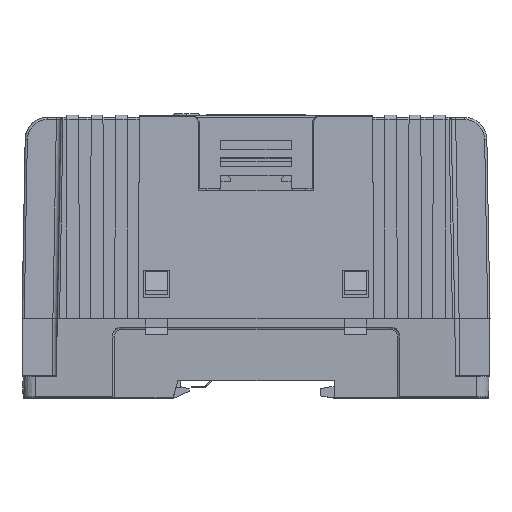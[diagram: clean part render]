
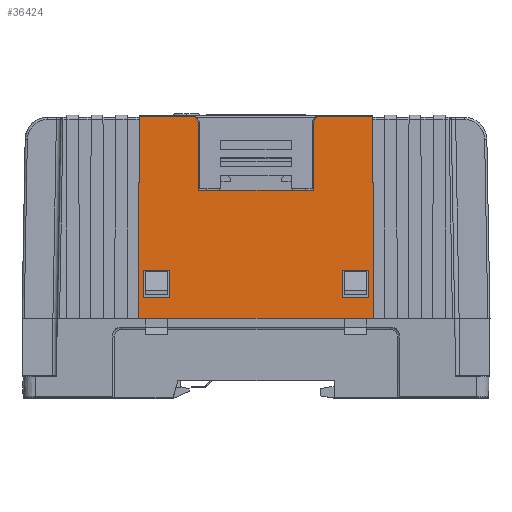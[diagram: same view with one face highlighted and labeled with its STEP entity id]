
A CAD part, top view. The second image highlights one B-rep face of the part: STEP entity #36424.
In plain terms, the highlighted planar face has unit normal (0, 0.018, 1).
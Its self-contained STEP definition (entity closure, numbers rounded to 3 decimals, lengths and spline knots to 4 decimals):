
#23849=DIRECTION('',(-1.,0.,0.));
#23850=VECTOR('',#23849,1.0236);
#23851=CARTESIAN_POINT('',(2.5591,1.8504,
0.1656));
#23852=LINE('',#23851,#23850);
#23865=DIRECTION('',(0.009,1.,-0.017));
#23866=VECTOR('',#23865,0.6177);
#23867=CARTESIAN_POINT('',(2.5591,1.8504,
0.1656));
#23868=LINE('',#23867,#23866);
#23869=DIRECTION('',(0.591,0.806,-0.014));
#23870=VECTOR('',#23869,0.0545);
#23871=CARTESIAN_POINT('',(2.5644,2.468,
0.1549));
#23872=LINE('',#23871,#23870);
#23873=DIRECTION('',(0.003,-1.,0.017));
#23874=VECTOR('',#23873,1.8036);
#23875=CARTESIAN_POINT('',(3.0885,2.5119,
0.1541));
#23876=LINE('',#23875,#23874);
#23877=DIRECTION('',(-1.,0.,0.));
#23878=VECTOR('',#23877,2.0951);
#23879=CARTESIAN_POINT('',(3.0948,0.7087,
0.1856));
#23880=LINE('',#23879,#23878);
#23881=DIRECTION('',(0.591,-0.806,0.014));
#23882=VECTOR('',#23881,0.0545);
#23883=CARTESIAN_POINT('',(1.4978,2.5119,
0.1541));
#23884=LINE('',#23883,#23882);
#23885=DIRECTION('',(0.009,-1.,0.017));
#23886=VECTOR('',#23885,0.6177);
#23887=CARTESIAN_POINT('',(1.53,2.468,
0.1549));
#23888=LINE('',#23887,#23886);
#23889=DIRECTION('',(-1.,0.,0.));
#23890=VECTOR('',#23889,0.2362);
#23891=CARTESIAN_POINT('',(3.0512,1.1339,
0.1781));
#23892=LINE('',#23891,#23890);
#23893=DIRECTION('',(1.,0.,0.));
#23894=VECTOR('',#23893,0.2362);
#23895=CARTESIAN_POINT('',(2.815,0.8976,
0.1823));
#23896=LINE('',#23895,#23894);
#23897=DIRECTION('',(-1.,0.,0.));
#23898=VECTOR('',#23897,0.2362);
#23899=CARTESIAN_POINT('',(1.2795,1.1339,
0.1781));
#23900=LINE('',#23899,#23898);
#23901=DIRECTION('',(1.,0.,0.));
#23902=VECTOR('',#23901,0.2362);
#23903=CARTESIAN_POINT('',(1.0433,0.8976,
0.1823));
#23904=LINE('',#23903,#23902);
#24079=DIRECTION('',(-1.,0.,0.));
#24080=VECTOR('',#24079,0.4918);
#24081=CARTESIAN_POINT('',(1.4978,2.5119,
0.1541));
#24082=LINE('',#24081,#24080);
#24089=DIRECTION('',(-0.003,-1.,0.017));
#24090=VECTOR('',#24089,1.8036);
#24091=CARTESIAN_POINT('',(1.006,2.5119,
0.1541));
#24092=LINE('',#24091,#24090);
#29344=DIRECTION('',(-1.,0.,0.));
#29345=VECTOR('',#29344,0.4918);
#29346=CARTESIAN_POINT('',(3.0885,2.5119,
0.1541));
#29347=LINE('',#29346,#29345);
#31993=DIRECTION('',(0.,-1.,0.017));
#31994=VECTOR('',#31993,0.2363);
#31995=CARTESIAN_POINT('',(3.0512,1.1339,
0.1781));
#31996=LINE('',#31995,#31994);
#32713=DIRECTION('',(0.,1.,-0.017));
#32714=VECTOR('',#32713,0.2363);
#32715=CARTESIAN_POINT('',(1.0433,0.8976,
0.1823));
#32716=LINE('',#32715,#32714);
#32733=DIRECTION('',(0.,-1.,0.017));
#32734=VECTOR('',#32733,0.2363);
#32735=CARTESIAN_POINT('',(1.2795,1.1339,
0.1781));
#32736=LINE('',#32735,#32734);
#32749=DIRECTION('',(0.,1.,-0.017));
#32750=VECTOR('',#32749,0.2363);
#32751=CARTESIAN_POINT('',(2.815,0.8976,
0.1823));
#32752=LINE('',#32751,#32750);
#32825=CARTESIAN_POINT('',(0.9997,0.7087,
0.1856));
#32826=VERTEX_POINT('',#32825);
#32827=CARTESIAN_POINT('',(3.0948,0.7087,
0.1856));
#32828=VERTEX_POINT('',#32827);
#33881=CARTESIAN_POINT('',(1.5354,1.8504,
0.1656));
#33883=VERTEX_POINT('',#33881);
#33885=CARTESIAN_POINT('',(1.53,2.468,
0.1549));
#33886=VERTEX_POINT('',#33885);
#33889=CARTESIAN_POINT('',(2.5591,1.8504,
0.1656));
#33890=VERTEX_POINT('',#33889);
#33917=CARTESIAN_POINT('',(2.5644,2.468,
0.1549));
#33918=VERTEX_POINT('',#33917);
#33919=CARTESIAN_POINT('',(2.5967,2.5119,
0.1541));
#33920=VERTEX_POINT('',#33919);
#33921=CARTESIAN_POINT('',(3.0885,2.5119,
0.1541));
#33922=VERTEX_POINT('',#33921);
#33923=CARTESIAN_POINT('',(1.006,2.5119,
0.1541));
#33924=VERTEX_POINT('',#33923);
#33925=CARTESIAN_POINT('',(1.4978,2.5119,
0.1541));
#33926=VERTEX_POINT('',#33925);
#33927=CARTESIAN_POINT('',(3.0512,1.1339,
0.1781));
#33928=CARTESIAN_POINT('',(3.0512,0.8976,
0.1823));
#33929=VERTEX_POINT('',#33927);
#33930=VERTEX_POINT('',#33928);
#33931=CARTESIAN_POINT('',(2.815,1.1339,
0.1781));
#33932=VERTEX_POINT('',#33931);
#33933=CARTESIAN_POINT('',(2.815,0.8976,
0.1823));
#33934=VERTEX_POINT('',#33933);
#33935=CARTESIAN_POINT('',(1.2795,1.1339,
0.1781));
#33936=CARTESIAN_POINT('',(1.2795,0.8976,
0.1823));
#33937=VERTEX_POINT('',#33935);
#33938=VERTEX_POINT('',#33936);
#33939=CARTESIAN_POINT('',(1.0433,1.1339,
0.1781));
#33940=VERTEX_POINT('',#33939);
#33941=CARTESIAN_POINT('',(1.0433,0.8976,
0.1823));
#33942=VERTEX_POINT('',#33941);
#36379=CARTESIAN_POINT('',(0.2867,0.7087,
0.1856));
#36380=DIRECTION('',(0.,0.017,1.));
#36381=DIRECTION('',(-1.,0.,0.));
#36382=AXIS2_PLACEMENT_3D('',#36379,#36380,#36381);
#36383=PLANE('',#36382);
#36384=ORIENTED_EDGE('',*,*,#36362,.F.);
#36386=ORIENTED_EDGE('',*,*,#36385,.T.);
#36388=ORIENTED_EDGE('',*,*,#36387,.T.);
#36390=ORIENTED_EDGE('',*,*,#36389,.F.);
#36392=ORIENTED_EDGE('',*,*,#36391,.T.);
#36393=ORIENTED_EDGE('',*,*,#35505,.T.);
#36395=ORIENTED_EDGE('',*,*,#36394,.F.);
#36397=ORIENTED_EDGE('',*,*,#36396,.F.);
#36399=ORIENTED_EDGE('',*,*,#36398,.T.);
#36401=ORIENTED_EDGE('',*,*,#36400,.T.);
#36402=EDGE_LOOP('',(#36384,#36386,#36388,#36390,#36392,#36393,#36395,#36397,
#36399,#36401));
#36403=FACE_OUTER_BOUND('',#36402,.F.);
#36405=ORIENTED_EDGE('',*,*,#36404,.F.);
#36407=ORIENTED_EDGE('',*,*,#36406,.T.);
#36409=ORIENTED_EDGE('',*,*,#36408,.F.);
#36411=ORIENTED_EDGE('',*,*,#36410,.T.);
#36412=EDGE_LOOP('',(#36405,#36407,#36409,#36411));
#36413=FACE_BOUND('',#36412,.F.);
#36415=ORIENTED_EDGE('',*,*,#36414,.F.);
#36417=ORIENTED_EDGE('',*,*,#36416,.T.);
#36419=ORIENTED_EDGE('',*,*,#36418,.F.);
#36421=ORIENTED_EDGE('',*,*,#36420,.T.);
#36422=EDGE_LOOP('',(#36415,#36417,#36419,#36421));
#36423=FACE_BOUND('',#36422,.F.);
#36424=ADVANCED_FACE('',(#36403,#36413,#36423),#36383,.T.);
#35505=EDGE_CURVE('',#32828,#32826,#23880,.T.);
#36362=EDGE_CURVE('',#33890,#33883,#23852,.T.);
#36385=EDGE_CURVE('',#33890,#33918,#23868,.T.);
#36387=EDGE_CURVE('',#33918,#33920,#23872,.T.);
#36389=EDGE_CURVE('',#33922,#33920,#29347,.T.);
#36391=EDGE_CURVE('',#33922,#32828,#23876,.T.);
#36394=EDGE_CURVE('',#33924,#32826,#24092,.T.);
#36396=EDGE_CURVE('',#33926,#33924,#24082,.T.);
#36398=EDGE_CURVE('',#33926,#33886,#23884,.T.);
#36400=EDGE_CURVE('',#33886,#33883,#23888,.T.);
#36404=EDGE_CURVE('',#33929,#33930,#31996,.T.);
#36406=EDGE_CURVE('',#33929,#33932,#23892,.T.);
#36408=EDGE_CURVE('',#33934,#33932,#32752,.T.);
#36410=EDGE_CURVE('',#33934,#33930,#23896,.T.);
#36414=EDGE_CURVE('',#33937,#33938,#32736,.T.);
#36416=EDGE_CURVE('',#33937,#33940,#23900,.T.);
#36418=EDGE_CURVE('',#33942,#33940,#32716,.T.);
#36420=EDGE_CURVE('',#33942,#33938,#23904,.T.);
